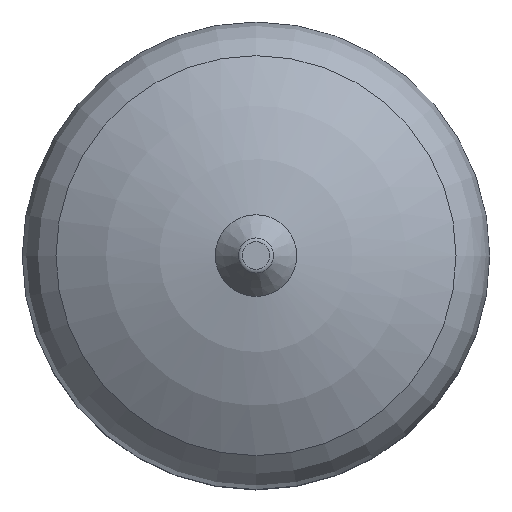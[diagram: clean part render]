
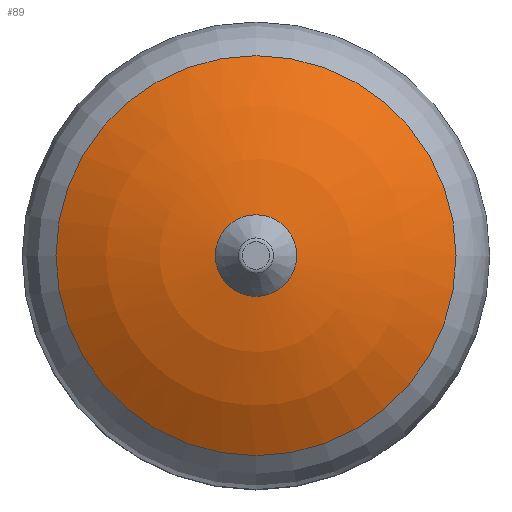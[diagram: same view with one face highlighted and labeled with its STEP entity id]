
A CAD part, top view. The second image highlights one B-rep face of the part: STEP entity #89.
In plain terms, the highlighted spherical face has radius 232 mm.
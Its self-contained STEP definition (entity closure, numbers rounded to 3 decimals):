
#89=ADVANCED_FACE('',(#415,#417),#419,.T.);
#415=FACE_BOUND('',#416,.T.);
#416=EDGE_LOOP('',(#591,#592));
#417=FACE_BOUND('',#418,.T.);
#418=EDGE_LOOP('',(#593,#594));
#419=SPHERICAL_SURFACE('',#420,232.);
#420=AXIS2_PLACEMENT_3D('',#421,#422,#423);
#421=CARTESIAN_POINT('',(0.,0.,107.217));
#422=DIRECTION('',(0.,0.,1.));
#423=DIRECTION('',(1.,0.,0.));
#591=ORIENTED_EDGE('',*,*,#676,.T.);
#592=ORIENTED_EDGE('',*,*,#675,.T.);
#593=ORIENTED_EDGE('',*,*,#677,.F.);
#594=ORIENTED_EDGE('',*,*,#678,.F.);
#675=EDGE_CURVE('',#823,#824,#825,.T.);
#676=EDGE_CURVE('',#824,#823,#826,.T.);
#677=EDGE_CURVE('',#827,#828,#829,.T.);
#678=EDGE_CURVE('',#828,#827,#830,.T.);
#823=VERTEX_POINT('',#1189);
#824=VERTEX_POINT('',#1190);
#825=CIRCLE('',#1191,124.064);
#826=CIRCLE('',#1195,124.064);
#827=VERTEX_POINT('',#1199);
#828=VERTEX_POINT('',#1200);
#829=CIRCLE('',#1201,25.316);
#830=CIRCLE('',#1205,25.316);
#1189=CARTESIAN_POINT('',(-124.064,0.,303.258));
#1190=CARTESIAN_POINT('',(124.064,0.,303.258));
#1191=AXIS2_PLACEMENT_3D('',#1192,#1193,#1194);
#1192=CARTESIAN_POINT('',(0.,0.,303.258));
#1193=DIRECTION('',(0.,0.,1.));
#1194=DIRECTION('',(-1.,0.,0.));
#1195=AXIS2_PLACEMENT_3D('',#1196,#1197,#1198);
#1196=CARTESIAN_POINT('',(0.,0.,303.258));
#1197=DIRECTION('',(0.,0.,1.));
#1198=DIRECTION('',(1.,0.,0.));
#1199=CARTESIAN_POINT('',(-25.316,0.,337.832));
#1200=CARTESIAN_POINT('',(25.316,0.,337.832));
#1201=AXIS2_PLACEMENT_3D('',#1202,#1203,#1204);
#1202=CARTESIAN_POINT('',(0.,0.,337.832));
#1203=DIRECTION('',(0.,0.,1.));
#1204=DIRECTION('',(-1.,0.,0.));
#1205=AXIS2_PLACEMENT_3D('',#1206,#1207,#1208);
#1206=CARTESIAN_POINT('',(0.,0.,337.832));
#1207=DIRECTION('',(0.,0.,1.));
#1208=DIRECTION('',(1.,0.,0.));
